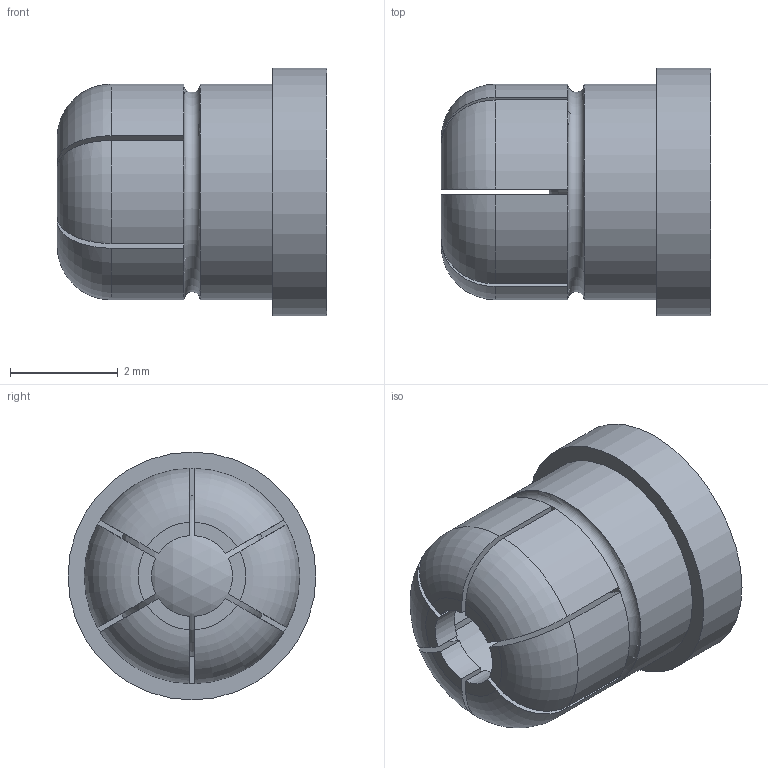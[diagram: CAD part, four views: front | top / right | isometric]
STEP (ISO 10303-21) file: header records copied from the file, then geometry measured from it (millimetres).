
FILE_DESCRIPTION( ( 'STEP AP203' ), '1' );
FILE_NAME( 'C:/Temp/Ganter_Step_05_03_2020/data/3_1/gn_614_5/Spring plunger GN 614.5-4-KD (activated).stp', '2020-03-12T09:12:47', ( 'License CC BY-ND 4.0' ), ( 'CADENAS' ), ' ', 'PARTsolutions', ' ' );
FILE_SCHEMA( ( 'CONFIG_CONTROL_DESIGN' ) );
Length unit declared in the file: millimetre
Products named in the file (1): _Spring plunger GN 614.5-4-KD (activated)
Bounding box: 5 x 4.6 x 4.6 mm (x, y, z)
Volume: 45.5 mm3; surface area: 168.2 mm2
Topology: 1 solids, 1 shells, 63 faces, 165 edges, 106 vertices
Faces by surface type: plane 32, cylinder 16, torus 13, sphere 2
Full cylindrical faces by diameter (mm): 2.98 x2, 4 x1, 4.6 x1
Entity records: 2048 total; most frequent: CARTESIAN_POINT 484, DIRECTION 322, ORIENTED_EDGE 314, EDGE_CURVE 157, AXIS2_PLACEMENT_3D 125, VERTEX_POINT 103, LINE 72, VECTOR 72
